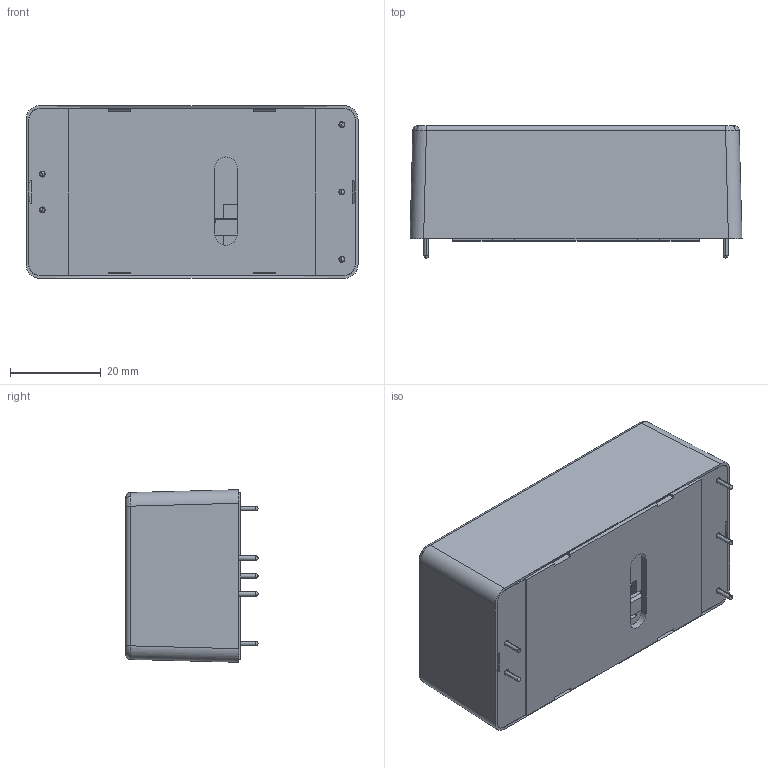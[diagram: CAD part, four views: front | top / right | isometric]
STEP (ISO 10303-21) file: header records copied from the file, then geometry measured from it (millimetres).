
FILE_DESCRIPTION (( 'STEP AP214' ), '1' );
FILE_NAME ('tpp30-d.STEP', '2018-06-06T13:28:48', ( '' ), ( '' ), 'SwSTEP 2.0', 'SolidWorks 2013', '' );
FILE_SCHEMA (( 'AUTOMOTIVE_DESIGN' ));
Length unit declared in the file: millimetre
Products named in the file (1): tpp30-d
Bounding box: 73.3 x 29.2 x 38.1 mm (x, y, z)
Surface area: 15041.8 mm2 (no closed solid volume)
Topology: 0 solids, 12 shells, 132 faces, 559 edges, 426 vertices
Faces by surface type: plane 69, cylinder 45, bspline 18
Entity records: 10281 total; most frequent: CARTESIAN_POINT 4538, ORIENTED_EDGE 826, DIRECTION 743, EDGE_CURVE 549, VERTEX_POINT 426, LINE 309, VECTOR 309, AXIS2_PLACEMENT_3D 217
